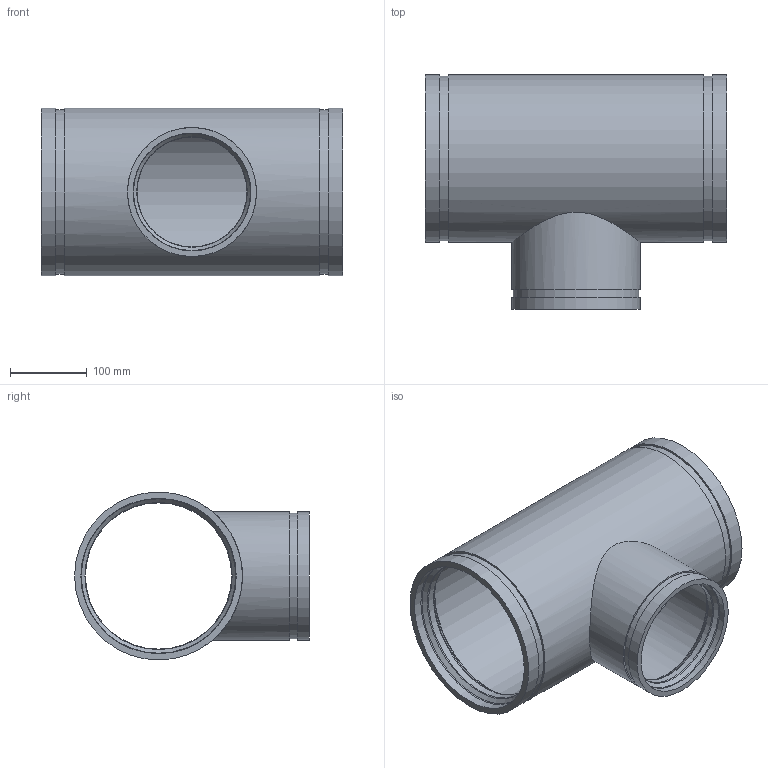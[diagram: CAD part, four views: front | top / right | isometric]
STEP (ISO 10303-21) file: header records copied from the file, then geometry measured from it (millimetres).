
FILE_DESCRIPTION(/* description */ ('VIC REDUCING TEE No 425H-SS','CAx-IF Rec.Pracs.---Representation and Presentation of Product Manufacturing Information (PMI)---4.0---2014-10-13'),/* implementation_level */ '2;1');
FILE_NAME(/* name */ 'C:\Users\kkamble\AppData\Roaming\Autodesk\ApplicationPlugins\Back Up\Victaulic_SS-OGS_Tee Reducing_Sched 40S_No 425H SS (OGS)\Victaulic_SS-OGS_Tee Reducing_Sched 40S_No 425H SS (OGS)_08.0x06.0 (200x150).stp',/* time_stamp */ '2020-08-27T17:20:20+06:00',/* author */ ('CORINNE GRAY'),/* organization */ ('Victaulic'),/* preprocessor_version */ 'ST-DEVELOPER v17.2',/* originating_system */ 'Autodesk Inventor 2019',/* authorisation */ '');
FILE_SCHEMA (('AP242_MANAGED_MODEL_BASED_3D_ENGINEERING_MIM_LF { 1 0 10303 442 1 1 4 }'));
Length unit declared in the file: inch
Products named in the file (1): 425H SS-08.0x06.0
Bounding box: 393.7 x 306.39 x 219.07 mm (x, y, z)
Volume: 2475668.7 mm3; surface area: 614845.7 mm2
Topology: 1 solids, 1 shells, 43 faces, 134 edges, 100 vertices
Faces by surface type: cylinder 16, torus 12, plane 9, cone 6
Full cylindrical faces by diameter (mm): 143.383 x1, 153.67 x2, 163.957 x1, 168.275 x2, 190.983 x2, 202.692 x3, 214.401 x2, 219.075 x3
Entity records: 1919 total; most frequent: CARTESIAN_POINT 427, DIRECTION 352, ORIENTED_EDGE 268, AXIS2_PLACEMENT_3D 165, EDGE_CURVE 134, CIRCLE 108, VERTEX_POINT 100, EDGE_LOOP 54
